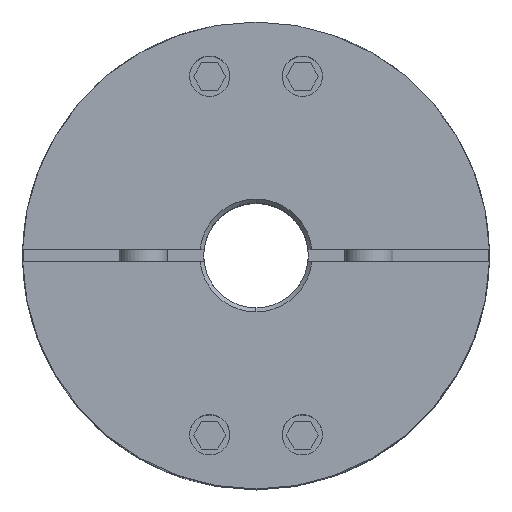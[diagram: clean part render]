
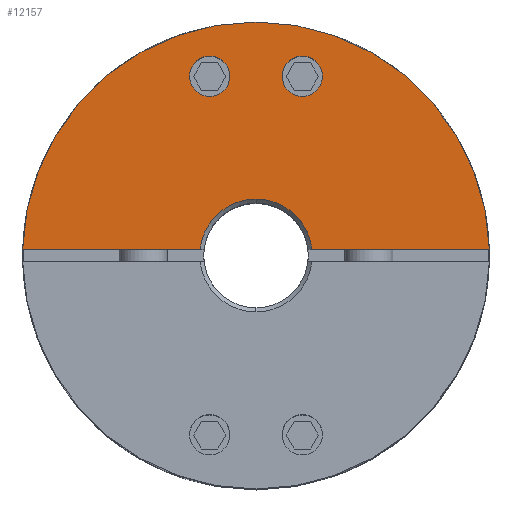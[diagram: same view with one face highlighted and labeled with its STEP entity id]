
A CAD part, top view. The second image highlights one B-rep face of the part: STEP entity #12157.
In plain terms, the highlighted planar face has unit normal (0, 0, 1).
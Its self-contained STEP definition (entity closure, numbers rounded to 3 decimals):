
#4725=CARTESIAN_POINT('',(5.759,24.767,35.75));
#4726=VERTEX_POINT('',#4725);
#4735=CARTESIAN_POINT('',(5.759,19.767,35.75));
#4736=VERTEX_POINT('',#4735);
#4737=CARTESIAN_POINT('',(5.759,22.267,35.75));
#4738=DIRECTION('',(0.0,0.0,-1.0));
#4739=DIRECTION('',(0.0,1.0,0.0));
#4740=AXIS2_PLACEMENT_3D('',#4737,#4738,#4739);
#4741=CIRCLE('',#4740,2.5);
#4742=EDGE_CURVE('',#4736,#4726,#4741,.T.);
#4767=CARTESIAN_POINT('',(-5.759,24.767,35.75));
#4768=VERTEX_POINT('',#4767);
#4777=CARTESIAN_POINT('',(-5.759,19.767,35.75));
#4778=VERTEX_POINT('',#4777);
#4779=CARTESIAN_POINT('',(-5.759,22.267,35.75));
#4780=DIRECTION('',(0.0,0.0,-1.0));
#4781=DIRECTION('',(0.0,1.0,0.0));
#4782=AXIS2_PLACEMENT_3D('',#4779,#4780,#4781);
#4783=CIRCLE('',#4782,2.5);
#4784=EDGE_CURVE('',#4778,#4768,#4783,.T.);
#5021=CARTESIAN_POINT('',(0.,29.0,35.75));
#5022=VERTEX_POINT('',#5021);
#5170=CARTESIAN_POINT('',(-28.99,0.75,35.75));
#5171=VERTEX_POINT('',#5170);
#5178=CARTESIAN_POINT('',(0.,0.0,35.75));
#5179=DIRECTION('',(0.0,0.0,-1.0));
#5180=DIRECTION('',(0.0,1.0,0.0));
#5181=AXIS2_PLACEMENT_3D('',#5178,#5179,#5180);
#5182=CIRCLE('',#5181,29.0);
#5183=EDGE_CURVE('',#5171,#5022,#5182,.T.);
#5355=CARTESIAN_POINT('',(0.,7.0,35.75));
#5356=VERTEX_POINT('',#5355);
#5372=CARTESIAN_POINT('',(6.96,0.75,35.75));
#5373=VERTEX_POINT('',#5372);
#5387=CARTESIAN_POINT('',(0.,0.0,35.75));
#5388=DIRECTION('',(0.0,0.0,1.0));
#5389=DIRECTION('',(0.0,1.0,0.0));
#5390=AXIS2_PLACEMENT_3D('',#5387,#5388,#5389);
#5391=CIRCLE('',#5390,7.0);
#5392=EDGE_CURVE('',#5373,#5356,#5391,.T.);
#11663=CARTESIAN_POINT('',(-6.96,0.75,35.75));
#11664=VERTEX_POINT('',#11663);
#11665=CARTESIAN_POINT('',(0.,0.0,35.75));
#11666=DIRECTION('',(0.0,0.0,1.0));
#11667=DIRECTION('',(0.0,1.0,0.0));
#11668=AXIS2_PLACEMENT_3D('',#11665,#11666,#11667);
#11669=CIRCLE('',#11668,7.0);
#11670=EDGE_CURVE('',#5356,#11664,#11669,.T.);
#11695=CARTESIAN_POINT('',(-28.99,0.75,35.75));
#11696=DIRECTION('',(1.0,0.0,0.0));
#11697=VECTOR('',#11696,22.031);
#11698=LINE('',#11695,#11697);
#11699=EDGE_CURVE('',#5171,#11664,#11698,.T.);
#11731=CARTESIAN_POINT('',(28.99,0.75,35.75));
#11732=VERTEX_POINT('',#11731);
#11739=CARTESIAN_POINT('',(6.96,0.75,35.75));
#11740=DIRECTION('',(1.0,0.0,0.0));
#11741=VECTOR('',#11740,22.031);
#11742=LINE('',#11739,#11741);
#11743=EDGE_CURVE('',#5373,#11732,#11742,.T.);
#11858=CARTESIAN_POINT('',(0.,0.0,35.75));
#11859=DIRECTION('',(0.0,0.0,-1.0));
#11860=DIRECTION('',(0.0,1.0,0.0));
#11861=AXIS2_PLACEMENT_3D('',#11858,#11859,#11860);
#11862=CIRCLE('',#11861,29.0);
#11863=EDGE_CURVE('',#5022,#11732,#11862,.T.);
#12096=CARTESIAN_POINT('',(-5.759,22.267,35.75));
#12097=DIRECTION('',(0.0,0.0,-1.0));
#12098=DIRECTION('',(0.0,1.0,0.0));
#12099=AXIS2_PLACEMENT_3D('',#12096,#12097,#12098);
#12100=CIRCLE('',#12099,2.5);
#12101=EDGE_CURVE('',#4768,#4778,#12100,.T.);
#12114=CARTESIAN_POINT('',(5.759,22.267,35.75));
#12115=DIRECTION('',(0.0,0.0,-1.0));
#12116=DIRECTION('',(0.0,1.0,0.0));
#12117=AXIS2_PLACEMENT_3D('',#12114,#12115,#12116);
#12118=CIRCLE('',#12117,2.5);
#12119=EDGE_CURVE('',#4726,#4736,#12118,.T.);
#12136=CARTESIAN_POINT('',(0.,2.636,35.75));
#12137=DIRECTION('',(0.0,0.0,1.0));
#12138=DIRECTION('',(0.0,1.0,0.0));
#12139=AXIS2_PLACEMENT_3D('',#12136,#12137,#12138);
#12140=PLANE('',#12139);
#12141=ORIENTED_EDGE('',*,*,#5392,.F.);
#12142=ORIENTED_EDGE('',*,*,#11743,.T.);
#12143=ORIENTED_EDGE('',*,*,#11863,.F.);
#12144=ORIENTED_EDGE('',*,*,#5183,.F.);
#12145=ORIENTED_EDGE('',*,*,#11699,.T.);
#12146=ORIENTED_EDGE('',*,*,#11670,.F.);
#12147=EDGE_LOOP('',(#12141,#12142,#12143,#12144,#12145,#12146));
#12148=FACE_OUTER_BOUND('',#12147,.T.);
#12149=ORIENTED_EDGE('',*,*,#12101,.T.);
#12150=ORIENTED_EDGE('',*,*,#4784,.T.);
#12151=EDGE_LOOP('',(#12149,#12150));
#12152=FACE_BOUND('',#12151,.T.);
#12153=ORIENTED_EDGE('',*,*,#12119,.T.);
#12154=ORIENTED_EDGE('',*,*,#4742,.T.);
#12155=EDGE_LOOP('',(#12153,#12154));
#12156=FACE_BOUND('',#12155,.T.);
#12157=ADVANCED_FACE('',(#12148,#12152,#12156),#12140,.T.);
